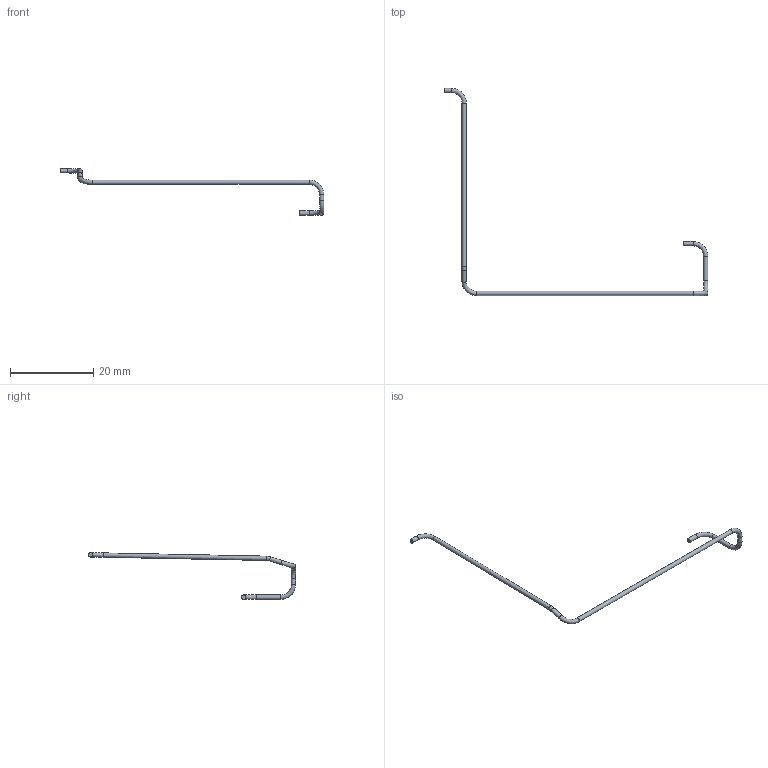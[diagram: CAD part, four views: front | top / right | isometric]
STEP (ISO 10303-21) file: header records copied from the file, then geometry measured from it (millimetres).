
FILE_DESCRIPTION(('Open CASCADE Model'),'2;1');
FILE_NAME('Open CASCADE Shape Model','2026-09-15T14:46:20',('Author'),( 'Open CASCADE'),'Open CASCADE STEP processor 7.7','Open CASCADE 7.7' ,'Unknown');
FILE_SCHEMA(('AUTOMOTIVE_DESIGN { 1 0 10303 214 1 1 1 1 }'));
Length unit declared in the file: millimetre
Products named in the file (1): J9_PIN_1_CONTROL_LEAD_OD1p05_R3
Bounding box: 63.42 x 49.8 x 11.24 mm (x, y, z)
Volume: 112.8 mm3; surface area: 431.5 mm2
Topology: 1 solids, 1 shells, 15 faces, 27 edges, 14 vertices
Faces by surface type: cylinder 7, torus 6, plane 2
Full cylindrical faces by diameter (mm): 1.05 x7
Entity records: 701 total; most frequent: CARTESIAN_POINT 136, DIRECTION 108, ORIENTED_EDGE 54, PCURVE 54, DEFINITIONAL_REPRESENTATION 54, AXIS2_PLACEMENT_3D 36, LINE 34, VECTOR 34
